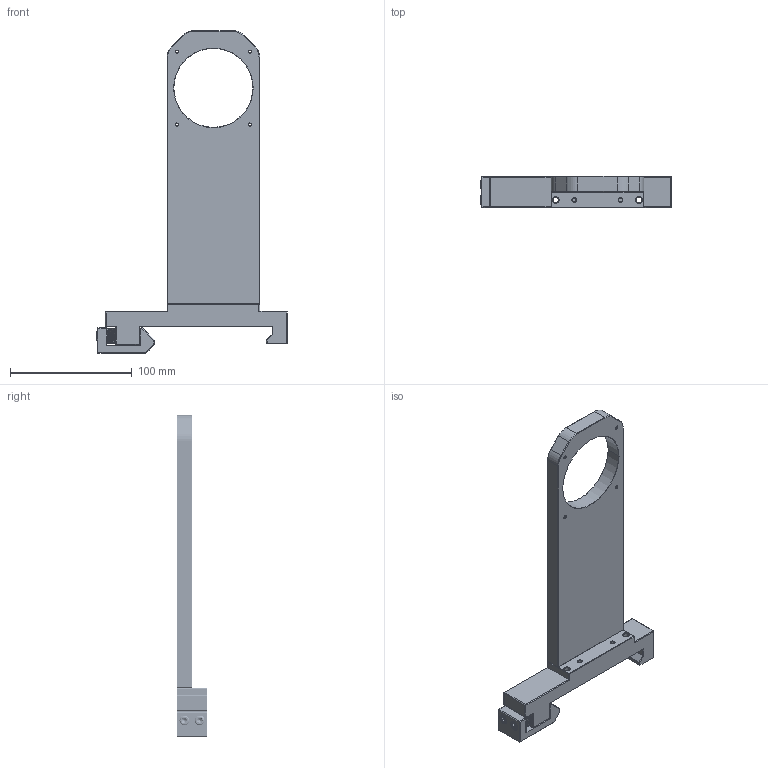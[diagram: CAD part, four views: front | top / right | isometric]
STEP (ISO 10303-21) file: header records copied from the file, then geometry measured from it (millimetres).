
FILE_DESCRIPTION((''),'2;1');
FILE_NAME('OPH95-FA65_ASM','2024-04-09T15:48:58',('R&D'),(''),'CREO PARAMETRIC BY PTC INC, 2021063','CREO PARAMETRIC BY PTC INC, 2021063','');
FILE_SCHEMA(('CONFIG_CONTROL_DESIGN'));
Products named in the file (13): OPH95-FA65-A1; OPH95-FA65-A2; OPH95-FA65-A3; OPH95-FA65-A4; OPH95-FA65-A5; OPH95-FA65-A6; OPH95-FA65-A7; OPH95-FA65-A8; OPH95-FA65-A9; OPH95-FA65-B1; OPH95-FA65-B2; OPH95-FA65-A0_ASM; OPH95-FA65_ASM
Assembly tree (12 placements, depth 3):
  OPH95-FA65_ASM
    OPH95-FA65-A0_ASM
      OPH95-FA65-A1
      OPH95-FA65-A2
      OPH95-FA65-A3
      OPH95-FA65-A4
      OPH95-FA65-A5
      OPH95-FA65-A6
      OPH95-FA65-A7
      OPH95-FA65-A8
      OPH95-FA65-A9
      OPH95-FA65-B1
      OPH95-FA65-B2
Bounding box: 157.11 x 25.4 x 265.3 mm (x, y, z)
Volume: 254966.9 mm3; surface area: 67071.1 mm2
Topology: 11 solids, 11 shells, 1232 faces, 3394 edges, 2140 vertices
Faces by surface type: cylinder 804, plane 172, bspline 138, cone 110, torus 8
Entity records: 114051 total; most frequent: CARTESIAN_POINT 86080, ORIENTED_EDGE 6756, DIRECTION 4230, EDGE_CURVE 3378, VERTEX_POINT 2140, B_SPLINE_CURVE_WITH_KNOTS 1738, AXIS2_PLACEMENT_3D 1460, VECTOR 1310
